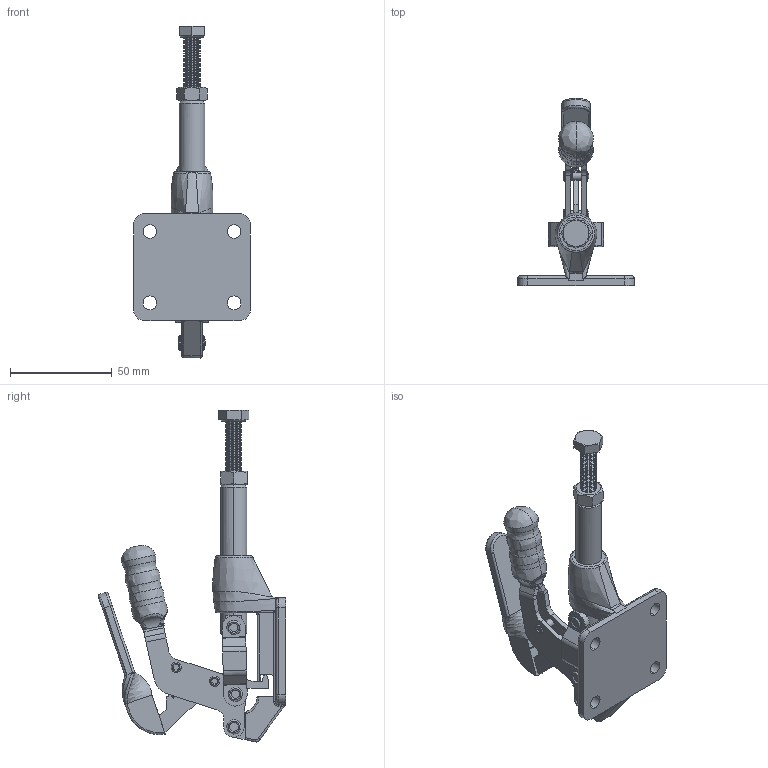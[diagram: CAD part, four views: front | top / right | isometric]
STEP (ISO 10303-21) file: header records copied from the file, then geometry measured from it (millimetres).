
FILE_DESCRIPTION (( 'STEP AP214' ), '1' );
FILE_NAME ('DST-304-CMT.STEP', '2024-01-31T14:26:32', ( '' ), ( '' ), 'SwSTEP 2.0', 'SolidWorks 2015', '' );
FILE_SCHEMA (( 'AUTOMOTIVE_DESIGN' ));
Length unit declared in the file: millimetre
Products named in the file (14): ﾁｻｬ-; DST-304-CMT; +ｼｩT; hexagon head bolts-full thread gb_GB_FASTENER_BOLT_STBAB A M8X50-S; +¡Âñ3; 1; 林固; +¡Âñ2; 蹉峔; hex nuts, style 1-grades ab gb_GB_FASTENER_NUT_SNAB1 M8-N; +¡Âñ1; ｦﾍ-ｪｦﾎ; ｦﾍ-ｪ; 恛T鬲-
Assembly tree (16 placements, depth 2):
  DST-304-CMT
    蹉峔
    ｦﾍ-ｪ
    +ｼｩT  x2
    林固
    恛T鬲-
    1
    ｦﾍ-ｪｦﾎ
    +¡Âñ1
    +¡Âñ2  x2
    +¡Âñ3  x2
    ﾁｻｬ-
    hexagon head bolts-full thread gb_GB_FASTENER_BOLT_STBAB A M8X50-S
    hex nuts, style 1-grades ab gb_GB_FASTENER_NUT_SNAB1 M8-N
Bounding box: 57.2 x 91.88 x 162.97 mm (x, y, z)
Volume: 61879.2 mm3; surface area: 38737.6 mm2
Topology: 17 solids, 17 shells, 943 faces, 2218 edges, 1299 vertices
Faces by surface type: cylinder 319, cone 276, plane 176, bspline 172
Entity records: 34990 total; most frequent: CARTESIAN_POINT 14997, ORIENTED_EDGE 4096, DIRECTION 4077, EDGE_CURVE 2048, AXIS2_PLACEMENT_3D 1607, VERTEX_POINT 1209, EDGE_LOOP 929, ADVANCED_FACE 878
